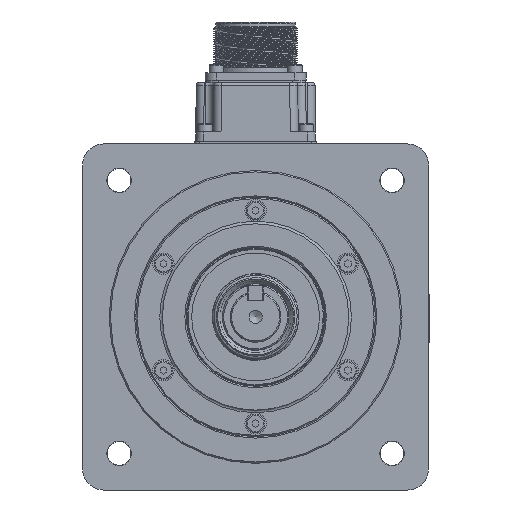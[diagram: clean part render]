
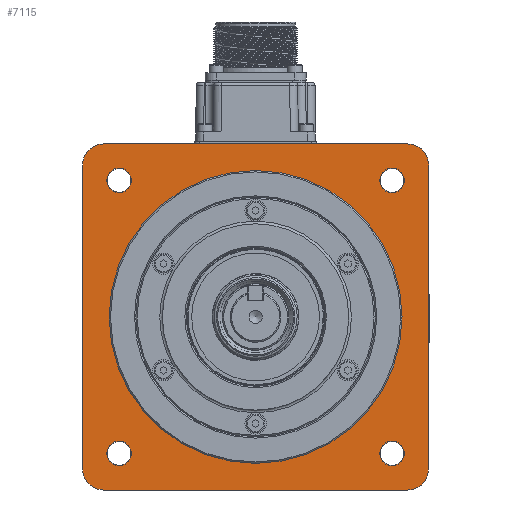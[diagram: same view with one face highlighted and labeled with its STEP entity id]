
A CAD part, front view. The second image highlights one B-rep face of the part: STEP entity #7115.
In plain terms, the highlighted planar face has unit normal (0, -1, 0).
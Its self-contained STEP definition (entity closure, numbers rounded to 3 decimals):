
#7115 = ADVANCED_FACE( '', ( #15186, #15187, #15188, #15189, #15190, #15191 ), #15192, .F. );
#15186 = FACE_BOUND( '', #36344, .T. );
#15187 = FACE_OUTER_BOUND( '', #36345, .T. );
#15188 = FACE_BOUND( '', #36346, .T. );
#15189 = FACE_BOUND( '', #36347, .T. );
#15190 = FACE_BOUND( '', #36348, .T. );
#15191 = FACE_BOUND( '', #36349, .T. );
#15192 = PLANE( '', #36350 );
#36344 = EDGE_LOOP( '', ( #57814 ) );
#36345 = EDGE_LOOP( '', ( #57815, #57816, #57817, #57818, #57819, #57820, #57821, #57822 ) );
#36346 = EDGE_LOOP( '', ( #57823 ) );
#36347 = EDGE_LOOP( '', ( #57824 ) );
#36348 = EDGE_LOOP( '', ( #57825 ) );
#36349 = EDGE_LOOP( '', ( #57826 ) );
#36350 = AXIS2_PLACEMENT_3D( '', #57827, #57828, #57829 );
#57814 = ORIENTED_EDGE( '', *, *, #60137, .F. );
#57815 = ORIENTED_EDGE( '', *, *, #67434, .F. );
#57816 = ORIENTED_EDGE( '', *, *, #67612, .T. );
#57817 = ORIENTED_EDGE( '', *, *, #63050, .F. );
#57818 = ORIENTED_EDGE( '', *, *, #67613, .T. );
#57819 = ORIENTED_EDGE( '', *, *, #67012, .F. );
#57820 = ORIENTED_EDGE( '', *, *, #67614, .T. );
#57821 = ORIENTED_EDGE( '', *, *, #64352, .F. );
#57822 = ORIENTED_EDGE( '', *, *, #67615, .T. );
#57823 = ORIENTED_EDGE( '', *, *, #65842, .F. );
#57824 = ORIENTED_EDGE( '', *, *, #60424, .F. );
#57825 = ORIENTED_EDGE( '', *, *, #61856, .F. );
#57826 = ORIENTED_EDGE( '', *, *, #66752, .F. );
#57827 = CARTESIAN_POINT( '', ( 0., -39.5, 55. ) );
#57828 = DIRECTION( '', ( 0., 1., 0. ) );
#57829 = DIRECTION( '', ( 0., 0., 1. ) );
#60137 = EDGE_CURVE( '', #69634, #69634, #69635, .T. );
#60424 = EDGE_CURVE( '', #70136, #70136, #70137, .F. );
#61856 = EDGE_CURVE( '', #72558, #72558, #72559, .F. );
#63050 = EDGE_CURVE( '', #74470, #74472, #74473, .F. );
#64352 = EDGE_CURVE( '', #76460, #76463, #76464, .F. );
#65842 = EDGE_CURVE( '', #78493, #78493, #78494, .F. );
#66752 = EDGE_CURVE( '', #79648, #79648, #79649, .F. );
#67012 = EDGE_CURVE( '', #79949, #79951, #79952, .F. );
#67434 = EDGE_CURVE( '', #80411, #80413, #80414, .F. );
#67612 = EDGE_CURVE( '', #80411, #74472, #80609, .T. );
#67613 = EDGE_CURVE( '', #74470, #79951, #80610, .T. );
#67614 = EDGE_CURVE( '', #79949, #76463, #80611, .T. );
#67615 = EDGE_CURVE( '', #76460, #80413, #80612, .T. );
#69634 = VERTEX_POINT( '', #83501 );
#69635 = CIRCLE( '', #83502, 55. );
#70136 = VERTEX_POINT( '', #84461 );
#70137 = CIRCLE( '', #84462, 4.6 );
#72558 = VERTEX_POINT( '', #89593 );
#72559 = CIRCLE( '', #89594, 4.6 );
#74470 = VERTEX_POINT( '', #94209 );
#74472 = VERTEX_POINT( '', #94212 );
#74473 = CIRCLE( '', #94213, 8. );
#76460 = VERTEX_POINT( '', #100987 );
#76463 = VERTEX_POINT( '', #100991 );
#76464 = CIRCLE( '', #100992, 8. );
#78493 = VERTEX_POINT( '', #104825 );
#78494 = CIRCLE( '', #104826, 4.6 );
#79648 = VERTEX_POINT( '', #107566 );
#79649 = CIRCLE( '', #107567, 4.6 );
#79949 = VERTEX_POINT( '', #108421 );
#79951 = VERTEX_POINT( '', #108424 );
#79952 = CIRCLE( '', #108425, 8. );
#80411 = VERTEX_POINT( '', #109320 );
#80413 = VERTEX_POINT( '', #109323 );
#80414 = CIRCLE( '', #109324, 8. );
#80609 = LINE( '', #109601, #109602 );
#80610 = LINE( '', #109603, #109604 );
#80611 = LINE( '', #109605, #109606 );
#80612 = LINE( '', #109607, #109608 );
#83501 = CARTESIAN_POINT( '', ( 0., -39.5, -55. ) );
#83502 = AXIS2_PLACEMENT_3D( '', #113712, #113713, #113714 );
#84461 = CARTESIAN_POINT( '', ( -51.265, -39.5, -46.665 ) );
#84462 = AXIS2_PLACEMENT_3D( '', #114066, #114067, #114068 );
#89593 = CARTESIAN_POINT( '', ( 51.265, -39.5, -46.665 ) );
#89594 = AXIS2_PLACEMENT_3D( '', #115649, #115650, #115651 );
#94209 = CARTESIAN_POINT( '', ( -57., -39.5, -65. ) );
#94212 = CARTESIAN_POINT( '', ( -65., -39.5, -57. ) );
#94213 = AXIS2_PLACEMENT_3D( '', #117046, #117047, #117048 );
#100987 = CARTESIAN_POINT( '', ( 57., -39.5, 65. ) );
#100991 = CARTESIAN_POINT( '', ( 65., -39.5, 57. ) );
#100992 = AXIS2_PLACEMENT_3D( '', #118262, #118263, #118264 );
#104825 = CARTESIAN_POINT( '', ( -51.265, -39.5, 55.866 ) );
#104826 = AXIS2_PLACEMENT_3D( '', #119740, #119741, #119742 );
#107566 = CARTESIAN_POINT( '', ( 51.265, -39.5, 55.866 ) );
#107567 = AXIS2_PLACEMENT_3D( '', #120597, #120598, #120599 );
#108421 = CARTESIAN_POINT( '', ( 65., -39.5, -57. ) );
#108424 = CARTESIAN_POINT( '', ( 57., -39.5, -65. ) );
#108425 = AXIS2_PLACEMENT_3D( '', #120783, #120784, #120785 );
#109320 = CARTESIAN_POINT( '', ( -65., -39.5, 57. ) );
#109323 = CARTESIAN_POINT( '', ( -57., -39.5, 65. ) );
#109324 = AXIS2_PLACEMENT_3D( '', #121021, #121022, #121023 );
#109601 = CARTESIAN_POINT( '', ( -65., -39.5, 65. ) );
#109602 = VECTOR( '', #121106, 1000. );
#109603 = CARTESIAN_POINT( '', ( -65., -39.5, -65. ) );
#109604 = VECTOR( '', #121107, 1000. );
#109605 = CARTESIAN_POINT( '', ( 65., -39.5, -65. ) );
#109606 = VECTOR( '', #121108, 1000. );
#109607 = CARTESIAN_POINT( '', ( 65., -39.5, 65. ) );
#109608 = VECTOR( '', #121109, 1000. );
#113712 = CARTESIAN_POINT( '', ( 0., -39.5, 0. ) );
#113713 = DIRECTION( '', ( 0., -1., 0. ) );
#113714 = DIRECTION( '', ( 0., 0., -1. ) );
#114066 = CARTESIAN_POINT( '', ( -51.265, -39.5, -51.265 ) );
#114067 = DIRECTION( '', ( 0., 1., 0. ) );
#114068 = DIRECTION( '', ( 0., 0., 1. ) );
#115649 = CARTESIAN_POINT( '', ( 51.265, -39.5, -51.265 ) );
#115650 = DIRECTION( '', ( 0., 1., 0. ) );
#115651 = DIRECTION( '', ( 0., 0., 1. ) );
#117046 = CARTESIAN_POINT( '', ( -57., -39.5, -57. ) );
#117047 = DIRECTION( '', ( 0., -1., 0. ) );
#117048 = DIRECTION( '', ( 0., 0., -1. ) );
#118262 = CARTESIAN_POINT( '', ( 57., -39.5, 57. ) );
#118263 = DIRECTION( '', ( 0., -1., 0. ) );
#118264 = DIRECTION( '', ( 0., 0., -1. ) );
#119740 = CARTESIAN_POINT( '', ( -51.265, -39.5, 51.265 ) );
#119741 = DIRECTION( '', ( 0., 1., 0. ) );
#119742 = DIRECTION( '', ( 0., 0., 1. ) );
#120597 = CARTESIAN_POINT( '', ( 51.265, -39.5, 51.265 ) );
#120598 = DIRECTION( '', ( 0., 1., 0. ) );
#120599 = DIRECTION( '', ( 0., 0., 1. ) );
#120783 = CARTESIAN_POINT( '', ( 57., -39.5, -57. ) );
#120784 = DIRECTION( '', ( 0., -1., 0. ) );
#120785 = DIRECTION( '', ( 0., 0., -1. ) );
#121021 = CARTESIAN_POINT( '', ( -57., -39.5, 57. ) );
#121022 = DIRECTION( '', ( 0., -1., 0. ) );
#121023 = DIRECTION( '', ( 0., 0., -1. ) );
#121106 = DIRECTION( '', ( 0., 0., -1. ) );
#121107 = DIRECTION( '', ( 1., 0., 0. ) );
#121108 = DIRECTION( '', ( 0., 0., 1. ) );
#121109 = DIRECTION( '', ( -1., 0., 0. ) );
